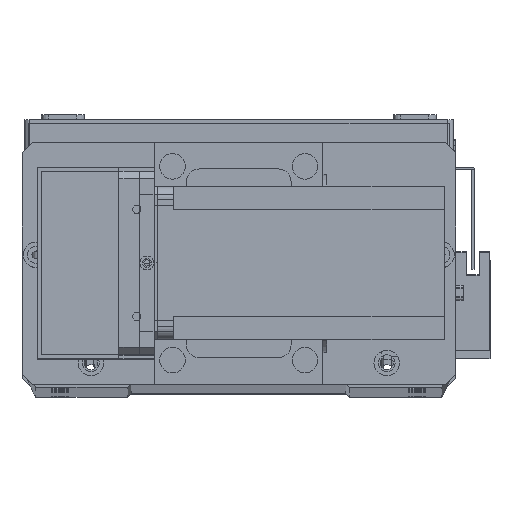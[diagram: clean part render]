
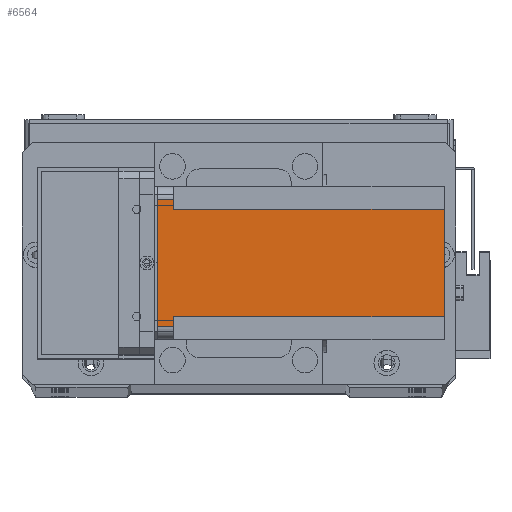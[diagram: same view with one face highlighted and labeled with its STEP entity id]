
A CAD part, top view. The second image highlights one B-rep face of the part: STEP entity #6564.
In plain terms, the highlighted planar face has unit normal (0, 0, 1) as drawn and (-1, 0, 0) by its records, which use the part's own axes.
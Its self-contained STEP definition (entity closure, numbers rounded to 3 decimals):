
#363 = VERTEX_POINT ( 'NONE', #17758 ) ;
#2073 = CARTESIAN_POINT ( 'NONE',  ( 0., 0., -6.5 ) ) ;
#3099 = VERTEX_POINT ( 'NONE', #28982 ) ;
#3758 = LINE ( 'NONE', #5926, #30487 ) ;
#3869 = VERTEX_POINT ( 'NONE', #26757 ) ;
#4241 = DIRECTION ( 'NONE',  ( 0., 0., 1. ) ) ;
#4414 = VECTOR ( 'NONE', #12502, 1000. ) ;
#4658 = EDGE_CURVE ( 'NONE', #3869, #363, #31133, .T. ) ;
#5118 = VECTOR ( 'NONE', #6870, 1000. ) ;
#5246 = LINE ( 'NONE', #30569, #4414 ) ;
#5706 = LINE ( 'NONE', #30824, #32436 ) ;
#5808 = LINE ( 'NONE', #20128, #17991 ) ;
#5926 = CARTESIAN_POINT ( 'NONE',  ( 0., 0., 0. ) ) ;
#6564 = ADVANCED_FACE ( 'NONE', ( #22523 ), #18592, .T. ) ;
#6870 = DIRECTION ( 'NONE',  ( 0., -1., 0. ) ) ;
#8268 = DIRECTION ( 'NONE',  ( -1., 0., 0. ) ) ;
#8709 = EDGE_CURVE ( 'NONE', #363, #21748, #5808, .T. ) ;
#8990 = EDGE_CURVE ( 'NONE', #20229, #25804, #12301, .T. ) ;
#9023 = EDGE_CURVE ( 'NONE', #3099, #25684, #3758, .T. ) ;
#9136 = ORIENTED_EDGE ( 'NONE', *, *, #4658, .F. ) ;
#9906 = DIRECTION ( 'NONE',  ( 0., 1., 0. ) ) ;
#10084 = ORIENTED_EDGE ( 'NONE', *, *, #8709, .F. ) ;
#10948 = ORIENTED_EDGE ( 'NONE', *, *, #9023, .F. ) ;
#12041 = LINE ( 'NONE', #24965, #5118 ) ;
#12301 = LINE ( 'NONE', #23910, #17562 ) ;
#12339 = ORIENTED_EDGE ( 'NONE', *, *, #29405, .F. ) ;
#12446 = ORIENTED_EDGE ( 'NONE', *, *, #8990, .F. ) ;
#12502 = DIRECTION ( 'NONE',  ( 0., 0., -1. ) ) ;
#12607 = LINE ( 'NONE', #30063, #31611 ) ;
#12978 = ORIENTED_EDGE ( 'NONE', *, *, #19901, .T. ) ;
#13546 = DIRECTION ( 'NONE',  ( 0., 1., 0. ) ) ;
#16092 = EDGE_LOOP ( 'NONE', ( #9136, #12978, #10948, #30345, #12446, #12339, #25838, #10084 ) ) ;
#16151 = CARTESIAN_POINT ( 'NONE',  ( 0., 51., -6.5 ) ) ;
#16241 = EDGE_CURVE ( 'NONE', #26717, #21748, #12041, .T. ) ;
#16580 = VECTOR ( 'NONE', #9906, 1000. ) ;
#17405 = DIRECTION ( 'NONE',  ( 0., 0., -1. ) ) ;
#17562 = VECTOR ( 'NONE', #13546, 1000. ) ;
#17758 = CARTESIAN_POINT ( 'NONE',  ( 0., 9., -6.5 ) ) ;
#17991 = VECTOR ( 'NONE', #17405, 1000. ) ;
#18592 = PLANE ( 'NONE',  #28487 ) ;
#19901 = EDGE_CURVE ( 'NONE', #3869, #25684, #12607, .T. ) ;
#20128 = CARTESIAN_POINT ( 'NONE',  ( 0., 9., -112.5 ) ) ;
#20229 = VERTEX_POINT ( 'NONE', #16151 ) ;
#20249 = CARTESIAN_POINT ( 'NONE',  ( 0., 9., -112.5 ) ) ;
#20606 = EDGE_CURVE ( 'NONE', #3099, #25804, #5246, .T. ) ;
#21748 = VERTEX_POINT ( 'NONE', #20249 ) ;
#22523 = FACE_OUTER_BOUND ( 'NONE', #16092, .T. ) ;
#23744 = CARTESIAN_POINT ( 'NONE',  ( 0., 0., -112.5 ) ) ;
#23910 = CARTESIAN_POINT ( 'NONE',  ( 0., 60., -6.5 ) ) ;
#24015 = DIRECTION ( 'NONE',  ( 0., -1., 0. ) ) ;
#24965 = CARTESIAN_POINT ( 'NONE',  ( 0., 0., -112.5 ) ) ;
#25393 = CARTESIAN_POINT ( 'NONE',  ( 0., 5., 0. ) ) ;
#25684 = VERTEX_POINT ( 'NONE', #25393 ) ;
#25804 = VERTEX_POINT ( 'NONE', #33540 ) ;
#25838 = ORIENTED_EDGE ( 'NONE', *, *, #16241, .T. ) ;
#26339 = DIRECTION ( 'NONE',  ( 0., -1., 0. ) ) ;
#26717 = VERTEX_POINT ( 'NONE', #32124 ) ;
#26757 = CARTESIAN_POINT ( 'NONE',  ( 0., 5., -6.5 ) ) ;
#28487 = AXIS2_PLACEMENT_3D ( 'NONE', #23744, #8268, #26339 ) ;
#28982 = CARTESIAN_POINT ( 'NONE',  ( 0., 55., 0. ) ) ;
#29405 = EDGE_CURVE ( 'NONE', #26717, #20229, #5706, .T. ) ;
#30063 = CARTESIAN_POINT ( 'NONE',  ( 0., 5., -112.5 ) ) ;
#30345 = ORIENTED_EDGE ( 'NONE', *, *, #20606, .T. ) ;
#30487 = VECTOR ( 'NONE', #24015, 1000. ) ;
#30569 = CARTESIAN_POINT ( 'NONE',  ( 0., 55., -112.5 ) ) ;
#30824 = CARTESIAN_POINT ( 'NONE',  ( 0., 51., -112.5 ) ) ;
#31133 = LINE ( 'NONE', #2073, #16580 ) ;
#31611 = VECTOR ( 'NONE', #4241, 1000. ) ;
#32124 = CARTESIAN_POINT ( 'NONE',  ( 0., 51., -112.5 ) ) ;
#32436 = VECTOR ( 'NONE', #33443, 1000. ) ;
#33443 = DIRECTION ( 'NONE',  ( 0., 0., 1. ) ) ;
#33540 = CARTESIAN_POINT ( 'NONE',  ( 0., 55., -6.5 ) ) ;
